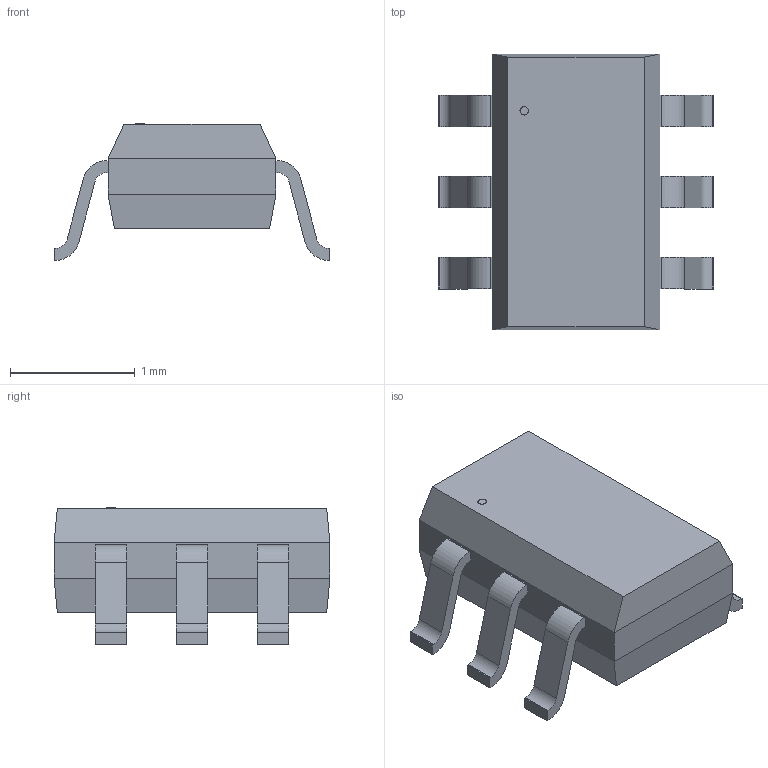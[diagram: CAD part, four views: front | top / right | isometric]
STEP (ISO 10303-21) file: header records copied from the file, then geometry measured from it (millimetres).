
FILE_DESCRIPTION(('STEP AP214'),'1');
FILE_NAME('SC70-6_2P2X1P35_ONS','2025-03-26T11:02:01',(''),(''),'','','');
FILE_SCHEMA(('AUTOMOTIVE_DESIGN'));
Length unit declared in the file: millimetre
Products named in the file (1): product
Bounding box: 2.21 x 2.21 x 1.09 mm (x, y, z)
Volume: 2.5 mm3; surface area: 15.1 mm2
Topology: 8 solids, 8 shells, 101 faces, 247 edges, 162 vertices
Faces by surface type: plane 76, cylinder 25
Full cylindrical faces by diameter (mm): 0.067 x1
Entity records: 2981 total; most frequent: DIRECTION 502, ORIENTED_EDGE 492, CARTESIAN_POINT 291, EDGE_CURVE 246, LINE 196, VECTOR 196, VERTEX_POINT 162, AXIS2_PLACEMENT_3D 153
